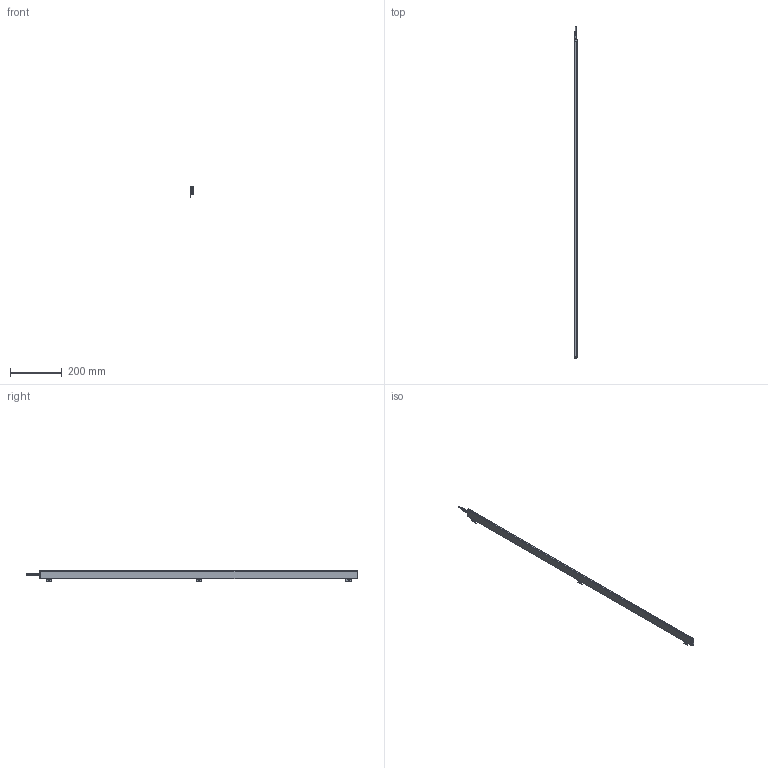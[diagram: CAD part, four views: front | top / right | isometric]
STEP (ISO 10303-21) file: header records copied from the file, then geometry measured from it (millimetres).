
FILE_DESCRIPTION (( 'STEP AP214' ), '1' );
FILE_NAME ('ILG-N-K2-1234mm.STEP', '2017-07-10T13:57:30', ( '' ), ( '' ), 'SwSTEP 2.0', 'SolidWorks 2016', '' );
FILE_SCHEMA (( 'AUTOMOTIVE_DESIGN' ));
Length unit declared in the file: millimetre
Products named in the file (1): ILG-N-K2-1234mm
Bounding box: 10.23 x 1287.5 x 42.41 mm (x, y, z)
Surface area: 210198.3 mm2 (no closed solid volume)
Topology: 0 solids, 16 shells, 781 faces, 2020 edges, 1269 vertices
Faces by surface type: plane 346, cylinder 297, cone 90, bspline 32, torus 16
Entity records: 34483 total; most frequent: CARTESIAN_POINT 6956, ORIENTED_EDGE 3993, DIRECTION 3858, EDGE_CURVE 2004, AXIS2_PLACEMENT_3D 1419, VERTEX_POINT 1269, VECTOR 1020, LINE 1020
